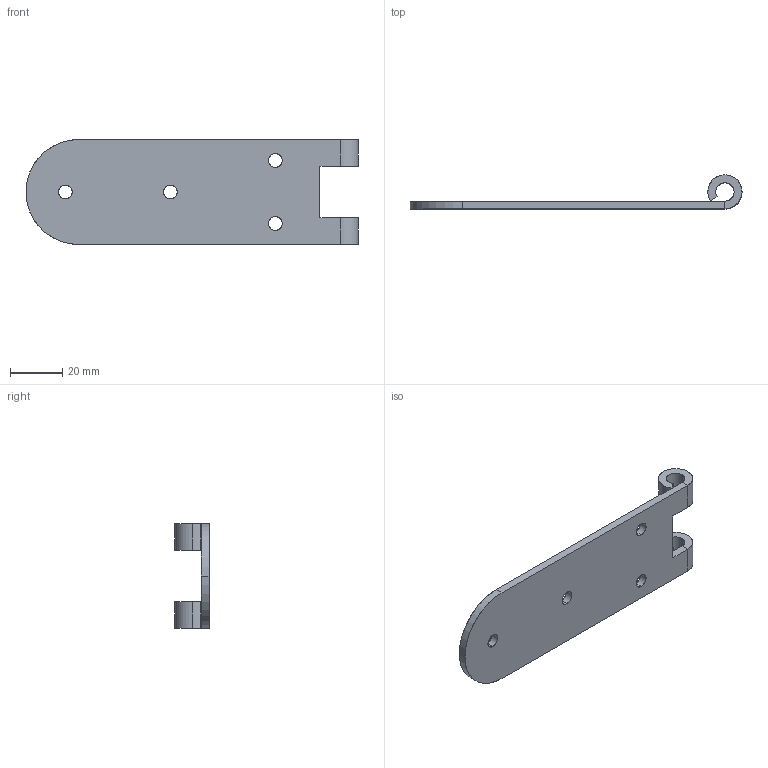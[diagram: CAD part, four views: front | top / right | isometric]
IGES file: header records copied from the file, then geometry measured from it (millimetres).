
Start section: SolidWorks IGES file using analytic representation for surfaces
Global section: file name: C:\Users\cbrechard.SAV\Desktop\CC 434\434.010.00.IGS; native system: SolidWorks 2013; preprocessor: SolidWorks 2013; author: cbrechard; date: 150209.110230; units: millimetre
Bounding box: 126.5 x 13 x 40 mm (x, y, z)
Surface area: 11321.9 mm2 (no closed solid volume)
Topology: 0 solids, 0 shells, 35 faces, 674 edges, 674 vertices
Faces by surface type: revolution 22, bspline 13
